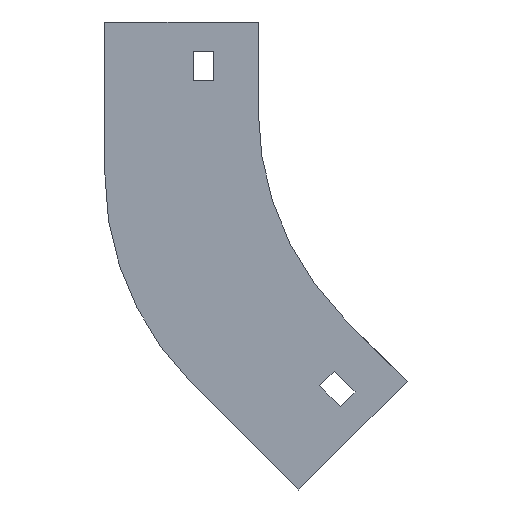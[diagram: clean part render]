
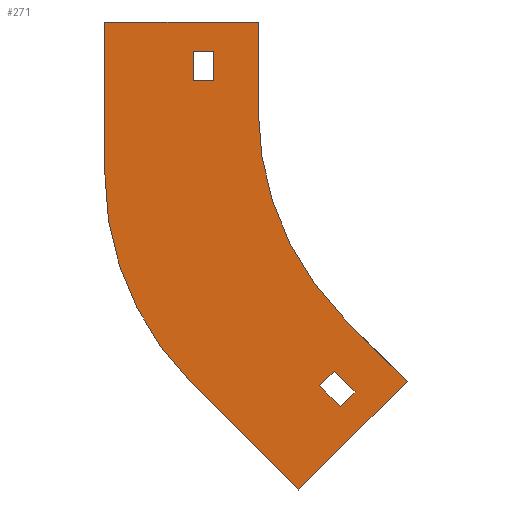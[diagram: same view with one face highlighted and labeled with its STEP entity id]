
A CAD part, left-side view. The second image highlights one B-rep face of the part: STEP entity #271.
In plain terms, the highlighted planar face has unit normal (-1, 0, 0).
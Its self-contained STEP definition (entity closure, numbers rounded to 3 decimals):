
#2 = FACE_BOUND ( 'NONE', #565, .T. ) ;
#3 = CARTESIAN_POINT ( 'NONE',  ( -302., -100., -30. ) ) ;
#10 = CARTESIAN_POINT ( 'NONE',  ( -302., 22., -10. ) ) ;
#15 = DIRECTION ( 'NONE',  ( 0., 0., 1. ) ) ;
#32 = CARTESIAN_POINT ( 'NONE',  ( -302., 52., -51.539 ) ) ;
#55 = CARTESIAN_POINT ( 'NONE',  ( -302., 15., -10. ) ) ;
#61 = VECTOR ( 'NONE', #1248, 1000. ) ;
#64 = ORIENTED_EDGE ( 'NONE', *, *, #825, .F. ) ;
#86 = DIRECTION ( 'NONE',  ( 0., 0., 1. ) ) ;
#88 = CIRCLE ( 'NONE', #433, 100. ) ;
#95 = CARTESIAN_POINT ( 'NONE',  ( -302., -29.289, -100.711 ) ) ;
#109 = LINE ( 'NONE', #1282, #1090 ) ;
#123 = VECTOR ( 'NONE', #248, 1000. ) ;
#124 = DIRECTION ( 'NONE',  ( -1., 0., 0. ) ) ;
#137 = EDGE_CURVE ( 'NONE', #748, #719, #1152, .T. ) ;
#144 = AXIS2_PLACEMENT_3D ( 'NONE', #333, #124, #15 ) ;
#149 = VERTEX_POINT ( 'NONE', #1276 ) ;
#155 = EDGE_CURVE ( 'NONE', #799, #1234, #536, .T. ) ;
#157 = VECTOR ( 'NONE', #831, 1000. ) ;
#163 = VECTOR ( 'NONE', #638, 1000. ) ;
#236 = LINE ( 'NONE', #95, #915 ) ;
#240 = VERTEX_POINT ( 'NONE', #757 ) ;
#244 = CARTESIAN_POINT ( 'NONE',  ( -302., 52., 0. ) ) ;
#248 = DIRECTION ( 'NONE',  ( 0., -0.707, 0.707 ) ) ;
#252 = EDGE_LOOP ( 'NONE', ( #1310, #527, #734, #1163 ) ) ;
#270 = ORIENTED_EDGE ( 'NONE', *, *, #1145, .T. ) ;
#271 = ADVANCED_FACE ( 'NONE', ( #2, #950, #325 ), #1176, .T. ) ;
#291 = LINE ( 'NONE', #596, #1327 ) ;
#300 = EDGE_CURVE ( 'NONE', #149, #463, #442, .T. ) ;
#308 = DIRECTION ( 'NONE',  ( 0., 0.707, 0.707 ) ) ;
#309 = EDGE_CURVE ( 'NONE', #657, #1155, #236, .T. ) ;
#323 = CARTESIAN_POINT ( 'NONE',  ( -302., 0., 0. ) ) ;
#325 = FACE_BOUND ( 'NONE', #252, .T. ) ;
#331 = CARTESIAN_POINT ( 'NONE',  ( -302., -13.733, -158.693 ) ) ;
#333 = CARTESIAN_POINT ( 'NONE',  ( -302., -100., -30. ) ) ;
#339 = LINE ( 'NONE', #323, #1252 ) ;
#360 = LINE ( 'NONE', #32, #423 ) ;
#371 = CARTESIAN_POINT ( 'NONE',  ( -302., 22.711, -122.25 ) ) ;
#398 = DIRECTION ( 'NONE',  ( 0., -0.707, -0.707 ) ) ;
#423 = VECTOR ( 'NONE', #1113, 1000. ) ;
#424 = DIRECTION ( 'NONE',  ( 0., -0.707, -0.707 ) ) ;
#432 = EDGE_CURVE ( 'NONE', #1348, #748, #677, .T. ) ;
#433 = AXIS2_PLACEMENT_3D ( 'NONE', #519, #1063, #935 ) ;
#442 = LINE ( 'NONE', #244, #163 ) ;
#450 = LINE ( 'NONE', #10, #458 ) ;
#458 = VECTOR ( 'NONE', #861, 1000. ) ;
#463 = VERTEX_POINT ( 'NONE', #878 ) ;
#470 = AXIS2_PLACEMENT_3D ( 'NONE', #3, #1046, #86 ) ;
#492 = CARTESIAN_POINT ( 'NONE',  ( -302., -27.875, -130.409 ) ) ;
#519 = CARTESIAN_POINT ( 'NONE',  ( -302., -48., -51.539 ) ) ;
#526 = CARTESIAN_POINT ( 'NONE',  ( -302., -50.503, -121.924 ) ) ;
#527 = ORIENTED_EDGE ( 'NONE', *, *, #432, .F. ) ;
#536 = LINE ( 'NONE', #331, #1058 ) ;
#565 = EDGE_LOOP ( 'NONE', ( #823, #270, #869, #581 ) ) ;
#581 = ORIENTED_EDGE ( 'NONE', *, *, #722, .T. ) ;
#596 = CARTESIAN_POINT ( 'NONE',  ( -302., -20.804, -123.338 ) ) ;
#600 = ORIENTED_EDGE ( 'NONE', *, *, #1006, .F. ) ;
#627 = CARTESIAN_POINT ( 'NONE',  ( -302., 0., -30. ) ) ;
#628 = DIRECTION ( 'NONE',  ( 0., 0.707, 0.707 ) ) ;
#632 = VERTEX_POINT ( 'NONE', #710 ) ;
#638 = DIRECTION ( 'NONE',  ( 0., -1., 0. ) ) ;
#656 = ORIENTED_EDGE ( 'NONE', *, *, #300, .F. ) ;
#657 = VERTEX_POINT ( 'NONE', #1358 ) ;
#677 = LINE ( 'NONE', #773, #123 ) ;
#687 = LINE ( 'NONE', #1345, #1249 ) ;
#690 = CARTESIAN_POINT ( 'NONE',  ( -302., 52., -51.539 ) ) ;
#703 = ORIENTED_EDGE ( 'NONE', *, *, #795, .F. ) ;
#710 = CARTESIAN_POINT ( 'NONE',  ( -302., 22., -10. ) ) ;
#719 = VERTEX_POINT ( 'NONE', #1270 ) ;
#720 = EDGE_CURVE ( 'NONE', #719, #840, #291, .T. ) ;
#722 = EDGE_CURVE ( 'NONE', #1039, #632, #1377, .T. ) ;
#727 = CARTESIAN_POINT ( 'NONE',  ( -302., -13.733, -158.693 ) ) ;
#732 = CARTESIAN_POINT ( 'NONE',  ( -302., -32.825, -125.459 ) ) ;
#734 = ORIENTED_EDGE ( 'NONE', *, *, #737, .F. ) ;
#737 = EDGE_CURVE ( 'NONE', #840, #1348, #1045, .T. ) ;
#748 = VERTEX_POINT ( 'NONE', #732 ) ;
#757 = CARTESIAN_POINT ( 'NONE',  ( -302., 15., -20. ) ) ;
#759 = DIRECTION ( 'NONE',  ( 0., 1., 0. ) ) ;
#767 = EDGE_CURVE ( 'NONE', #1290, #657, #1074, .T. ) ;
#773 = CARTESIAN_POINT ( 'NONE',  ( -302., -27.875, -130.409 ) ) ;
#790 = VECTOR ( 'NONE', #308, 1000. ) ;
#795 = EDGE_CURVE ( 'NONE', #1155, #799, #1286, .T. ) ;
#799 = VERTEX_POINT ( 'NONE', #727 ) ;
#822 = EDGE_LOOP ( 'NONE', ( #656, #600, #64, #968, #703, #946, #841, #863 ) ) ;
#823 = ORIENTED_EDGE ( 'NONE', *, *, #933, .T. ) ;
#825 = EDGE_CURVE ( 'NONE', #1234, #1259, #88, .T. ) ;
#831 = DIRECTION ( 'NONE',  ( 0., 0.707, -0.707 ) ) ;
#840 = VERTEX_POINT ( 'NONE', #1167 ) ;
#841 = ORIENTED_EDGE ( 'NONE', *, *, #767, .F. ) ;
#851 = CARTESIAN_POINT ( 'NONE',  ( -302., -32.825, -125.459 ) ) ;
#861 = DIRECTION ( 'NONE',  ( 0., -1., 0. ) ) ;
#863 = ORIENTED_EDGE ( 'NONE', *, *, #1367, .F. ) ;
#869 = ORIENTED_EDGE ( 'NONE', *, *, #1355, .T. ) ;
#878 = CARTESIAN_POINT ( 'NONE',  ( -302., 0., 0. ) ) ;
#915 = VECTOR ( 'NONE', #424, 1000. ) ;
#931 = CARTESIAN_POINT ( 'NONE',  ( -302., -27.875, -130.409 ) ) ;
#933 = EDGE_CURVE ( 'NONE', #632, #1149, #450, .T. ) ;
#935 = DIRECTION ( 'NONE',  ( 0., 0., -1. ) ) ;
#946 = ORIENTED_EDGE ( 'NONE', *, *, #309, .F. ) ;
#950 = FACE_OUTER_BOUND ( 'NONE', #822, .T. ) ;
#956 = VECTOR ( 'NONE', #398, 1000. ) ;
#968 = ORIENTED_EDGE ( 'NONE', *, *, #155, .F. ) ;
#1006 = EDGE_CURVE ( 'NONE', #1259, #149, #360, .T. ) ;
#1030 = CARTESIAN_POINT ( 'NONE',  ( -302., 22., -10. ) ) ;
#1039 = VERTEX_POINT ( 'NONE', #1094 ) ;
#1045 = LINE ( 'NONE', #492, #956 ) ;
#1046 = DIRECTION ( 'NONE',  ( -1., 0., 0. ) ) ;
#1058 = VECTOR ( 'NONE', #628, 1000. ) ;
#1063 = DIRECTION ( 'NONE',  ( 1., 0., 0. ) ) ;
#1074 = CIRCLE ( 'NONE', #470, 100. ) ;
#1090 = VECTOR ( 'NONE', #759, 1000. ) ;
#1094 = CARTESIAN_POINT ( 'NONE',  ( -302., 22., -20. ) ) ;
#1113 = DIRECTION ( 'NONE',  ( 0., 0., 1. ) ) ;
#1142 = DIRECTION ( 'NONE',  ( 0., 0., -1. ) ) ;
#1145 = EDGE_CURVE ( 'NONE', #1149, #240, #687, .T. ) ;
#1149 = VERTEX_POINT ( 'NONE', #55 ) ;
#1152 = LINE ( 'NONE', #851, #790 ) ;
#1155 = VERTEX_POINT ( 'NONE', #1232 ) ;
#1163 = ORIENTED_EDGE ( 'NONE', *, *, #720, .F. ) ;
#1167 = CARTESIAN_POINT ( 'NONE',  ( -302., -20.804, -123.338 ) ) ;
#1176 = PLANE ( 'NONE',  #144 ) ;
#1232 = CARTESIAN_POINT ( 'NONE',  ( -302., -50.503, -121.924 ) ) ;
#1234 = VERTEX_POINT ( 'NONE', #371 ) ;
#1248 = DIRECTION ( 'NONE',  ( 0., 0., 1. ) ) ;
#1249 = VECTOR ( 'NONE', #1142, 1000. ) ;
#1252 = VECTOR ( 'NONE', #1305, 1000. ) ;
#1259 = VERTEX_POINT ( 'NONE', #690 ) ;
#1263 = DIRECTION ( 'NONE',  ( 0., 0.707, -0.707 ) ) ;
#1270 = CARTESIAN_POINT ( 'NONE',  ( -302., -25.754, -118.388 ) ) ;
#1276 = CARTESIAN_POINT ( 'NONE',  ( -302., 52., 0. ) ) ;
#1282 = CARTESIAN_POINT ( 'NONE',  ( -302., 22., -20. ) ) ;
#1286 = LINE ( 'NONE', #526, #157 ) ;
#1290 = VERTEX_POINT ( 'NONE', #627 ) ;
#1305 = DIRECTION ( 'NONE',  ( 0., 0., -1. ) ) ;
#1310 = ORIENTED_EDGE ( 'NONE', *, *, #137, .F. ) ;
#1327 = VECTOR ( 'NONE', #1263, 1000. ) ;
#1345 = CARTESIAN_POINT ( 'NONE',  ( -302., 15., -10. ) ) ;
#1348 = VERTEX_POINT ( 'NONE', #931 ) ;
#1355 = EDGE_CURVE ( 'NONE', #240, #1039, #109, .T. ) ;
#1358 = CARTESIAN_POINT ( 'NONE',  ( -302., -29.289, -100.711 ) ) ;
#1367 = EDGE_CURVE ( 'NONE', #463, #1290, #339, .T. ) ;
#1377 = LINE ( 'NONE', #1030, #61 ) ;
